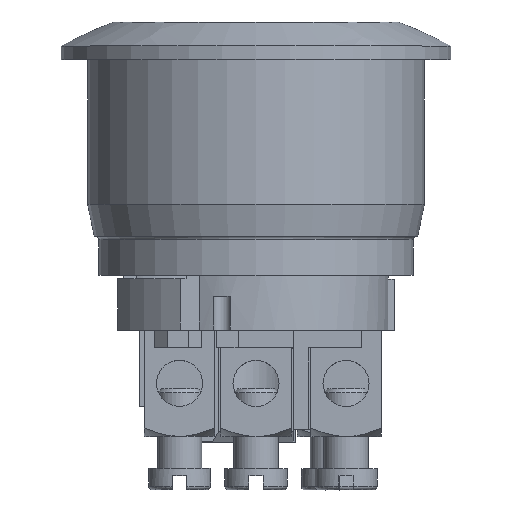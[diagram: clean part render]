
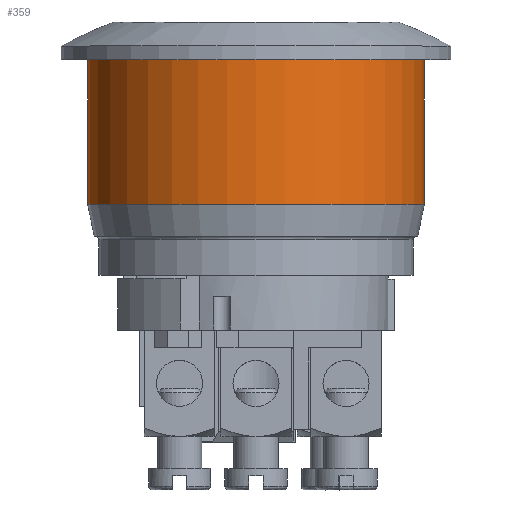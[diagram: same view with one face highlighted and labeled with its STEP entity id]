
A CAD part, top view. The second image highlights one B-rep face of the part: STEP entity #359.
In plain terms, the highlighted cylindrical face has radius 9.5 mm (diameter 19 mm), a partial arc.
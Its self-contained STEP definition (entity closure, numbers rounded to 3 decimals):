
#85=DIRECTION('',(0.,1.,0.));
#86=VECTOR('',#85,8.16);
#87=CARTESIAN_POINT('',(20.5,4.,-11.006));
#88=LINE('',#87,#86);
#89=CARTESIAN_POINT('',(11.,4.,-11.006));
#90=DIRECTION('',(0.,-1.,0.));
#91=DIRECTION('',(1.,0.,0.));
#92=AXIS2_PLACEMENT_3D('',#89,#90,#91);
#94=DIRECTION('',(0.,1.,0.));
#95=VECTOR('',#94,8.16);
#96=CARTESIAN_POINT('',(1.5,4.,-11.006));
#97=LINE('',#96,#95);
#103=CARTESIAN_POINT('',(11.,12.16,-11.006));
#104=DIRECTION('',(0.,-1.,0.));
#105=DIRECTION('',(1.,0.,0.));
#106=AXIS2_PLACEMENT_3D('',#103,#104,#105);
#177=CARTESIAN_POINT('',(20.5,4.,-11.006));
#178=VERTEX_POINT('',#177);
#179=CARTESIAN_POINT('',(20.5,12.16,-11.006));
#180=VERTEX_POINT('',#179);
#193=CARTESIAN_POINT('',(1.5,4.,-11.006));
#194=VERTEX_POINT('',#193);
#195=CARTESIAN_POINT('',(1.5,12.16,-11.006));
#196=VERTEX_POINT('',#195);
#345=CARTESIAN_POINT('',(11.,-0.714,-11.006));
#346=DIRECTION('',(0.,1.,0.));
#347=DIRECTION('',(1.,0.,0.));
#348=AXIS2_PLACEMENT_3D('',#345,#346,#347);
#349=CYLINDRICAL_SURFACE('',#348,9.5);
#351=ORIENTED_EDGE('',*,*,#350,.F.);
#352=ORIENTED_EDGE('',*,*,#340,.T.);
#354=ORIENTED_EDGE('',*,*,#353,.T.);
#356=ORIENTED_EDGE('',*,*,#355,.F.);
#357=EDGE_LOOP('',(#351,#352,#354,#356));
#358=FACE_OUTER_BOUND('',#357,.F.);
#359=ADVANCED_FACE('',(#358),#349,.T.);
#93=CIRCLE('',#92,9.5);
#107=CIRCLE('',#106,9.5);
#340=EDGE_CURVE('',#178,#194,#93,.T.);
#350=EDGE_CURVE('',#178,#180,#88,.T.);
#353=EDGE_CURVE('',#194,#196,#97,.T.);
#355=EDGE_CURVE('',#180,#196,#107,.T.);
